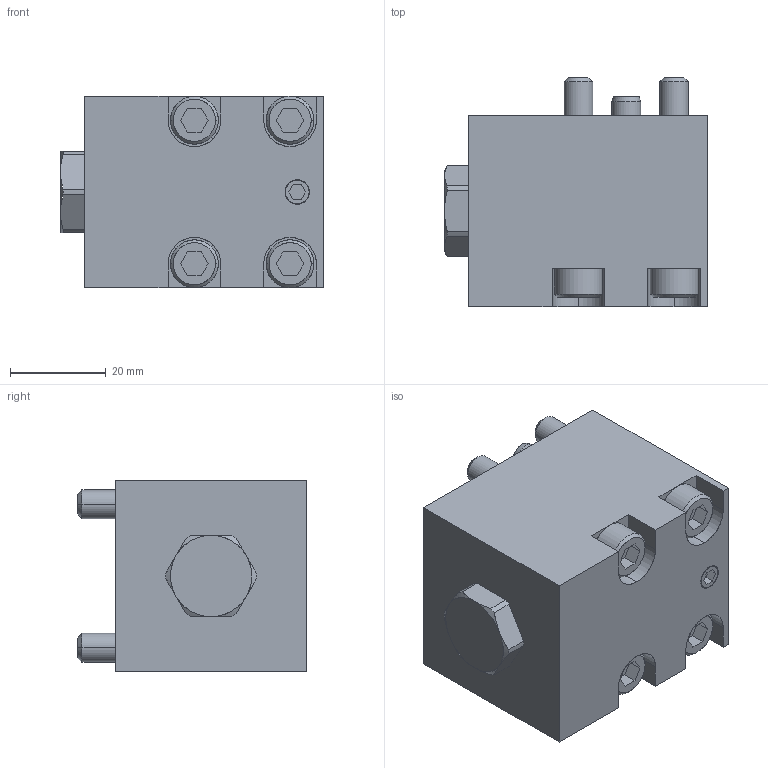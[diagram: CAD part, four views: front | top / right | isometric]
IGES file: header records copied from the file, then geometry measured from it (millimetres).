
Start section: SolidWorks IGES file using analytic representation for surfaces
Global section: file name: L:\電子カタログ-3D_IGES\JKA0x0-0G_rev2.igs; native system: SolidWorks 2009; preprocessor: SolidWorks 2009; author: D211; date: 100316.133203; units: millimetre
Bounding box: 55 x 48 x 40 mm (x, y, z)
Surface area: 14593.8 mm2 (no closed solid volume)
Topology: 0 solids, 0 shells, 172 faces, 2158 edges, 2152 vertices
Faces by surface type: bspline 87, revolution 85
